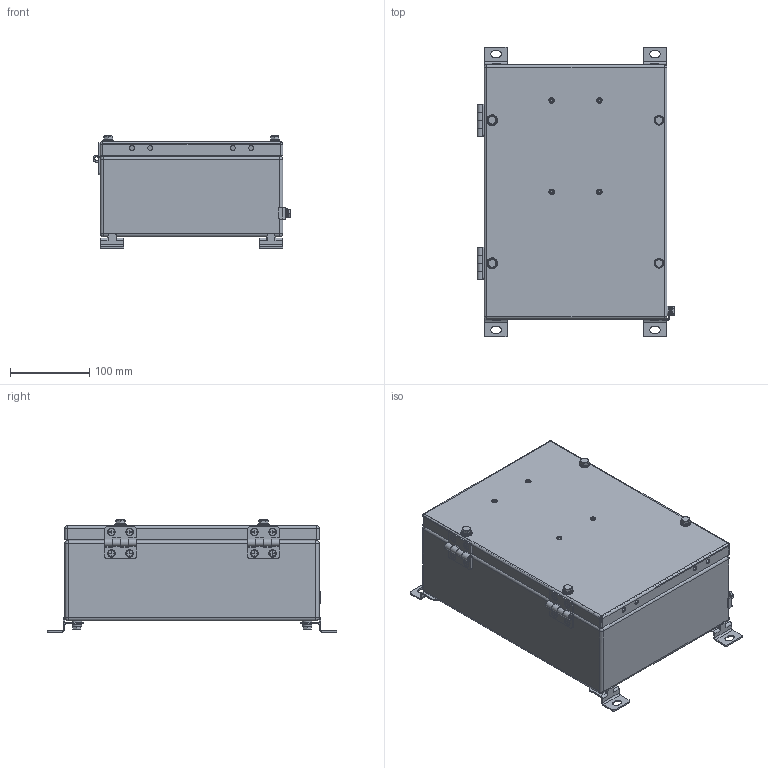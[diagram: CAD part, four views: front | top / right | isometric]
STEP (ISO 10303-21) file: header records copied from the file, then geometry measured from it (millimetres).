
FILE_DESCRIPTION((''),'2;1');
FILE_NAME('\\192.168.5.25\cortem_klient\INVENTOR БАЗА МОДЕЛЕЙ\Актуальная база моделей для отдела продаж\КСРВ-Н\КСРВ-Н322312_М5.stp','2019-04-09T14:12:22',('A.S.Kozlov'),(''),'Autodesk Inventor 2012','Autodesk Inventor 2012','');
FILE_SCHEMA(('CONFIG_CONTROL_DESIGN'));
Length unit declared in the file: millimetre
Products named in the file (1): КСРВ-(параметрическая модель)_Внешний контур_1
Bounding box: 249.19 x 364 x 141.2 mm (x, y, z)
Surface area: 438686.8 mm2 (no closed solid volume)
Topology: 0 solids, 87 shells, 372 faces, 1394 edges, 1030 vertices
Faces by surface type: plane 211, cylinder 149, sphere 12
Full cylindrical faces by diameter (mm): 5 x3, 5.9 x4, 6.1 x4, 9 x2, 10 x2, 12 x12, 12.7 x4, 14 x2
Entity records: 15290 total; most frequent: CARTESIAN_POINT 2905, DIRECTION 2540, ORIENTED_EDGE 1956, EDGE_CURVE 1346, VERTEX_POINT 1018, AXIS2_PLACEMENT_3D 905, VECTOR 730, LINE 730
